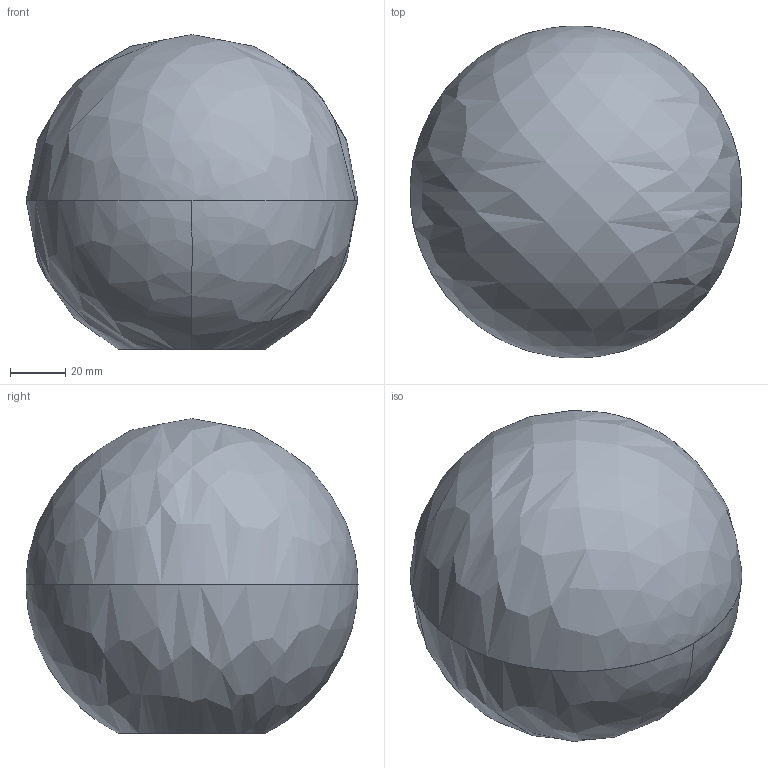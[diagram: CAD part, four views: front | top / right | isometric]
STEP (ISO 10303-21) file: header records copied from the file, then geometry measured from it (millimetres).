
FILE_DESCRIPTION(/* description */ (''),/* implementation_level */ '2;1');
FILE_NAME(/* name */ 'Enkei Jar Medio',/* time_stamp */ '2024-05-13T12:11:27+02:00',/* author */ (''),/* organization */ (''),/* preprocessor_version */ 'ST-DEVELOPER v16.5',/* originating_system */ 'Rhino 7.36',/* authorisation */ '');
FILE_SCHEMA (('CONFIG_CONTROL_DESIGN'));
Length unit declared in the file: millimetre
Products named in the file (1): Document
Bounding box: 119.84 x 120 x 113.75 mm (x, y, z)
Volume: 541575.4 mm3; surface area: 88836.3 mm2
Topology: 3 solids, 3 shells, 19 faces, 44 edges, 24 vertices
Faces by surface type: bspline 19
Entity records: 1386 total; most frequent: CARTESIAN_POINT 871, ORIENTED_EDGE 68, PCURVE 68, DEFINITIONAL_REPRESENTATION 68, B_SPLINE_CURVE_WITH_KNOTS 50, SURFACE_CURVE 34, EDGE_CURVE 34, EDGE_LOOP 24
